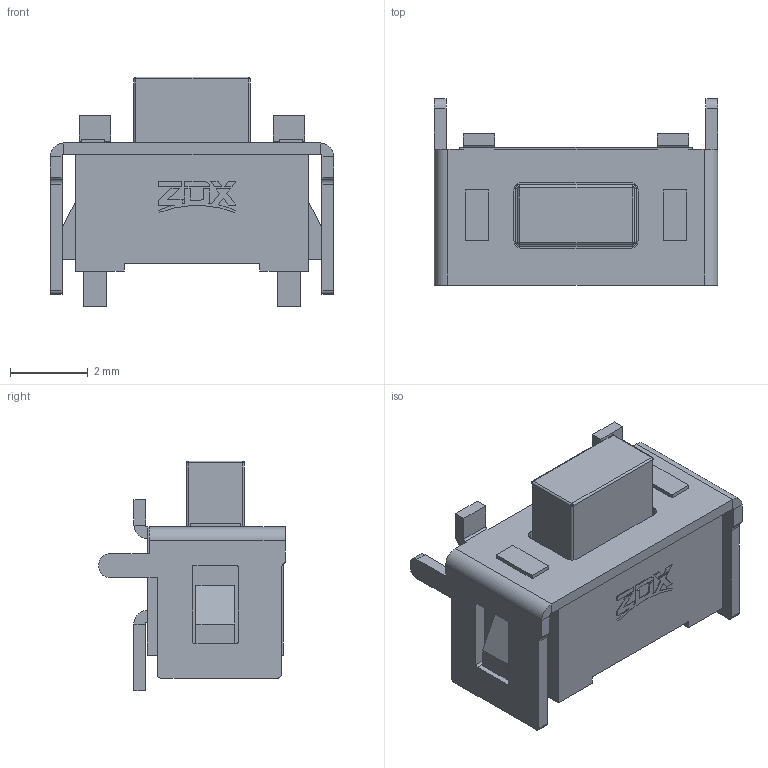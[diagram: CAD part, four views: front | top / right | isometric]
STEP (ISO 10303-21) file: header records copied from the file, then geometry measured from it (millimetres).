
FILE_DESCRIPTION((''),'2;1');
FILE_NAME('ASM0002_ASM','2024-01-07T',('WYH'),(''),'PRO/ENGINEER BY PARAMETRIC TECHNOLOGY CORPORATION, 2013040','PRO/ENGINEER BY PARAMETRIC TECHNOLOGY CORPORATION, 2013040','');
FILE_SCHEMA(('CONFIG_CONTROL_DESIGN'));
Length unit declared in the file: millimetre
Products named in the file (1): ASM0002_ASM
Bounding box: 7.3 x 4.8 x 5.93 mm (x, y, z)
Volume: 74.1 mm3; surface area: 256.3 mm2
Topology: 1 solids, 5 shells, 289 faces, 734 edges, 462 vertices
Faces by surface type: plane 207, cylinder 74, torus 4, sphere 4
Entity records: 8668 total; most frequent: CARTESIAN_POINT 1631, ORIENTED_EDGE 1460, DIRECTION 1408, EDGE_CURVE 730, VECTOR 590, LINE 590, VERTEX_POINT 462, AXIS2_PLACEMENT_3D 409
